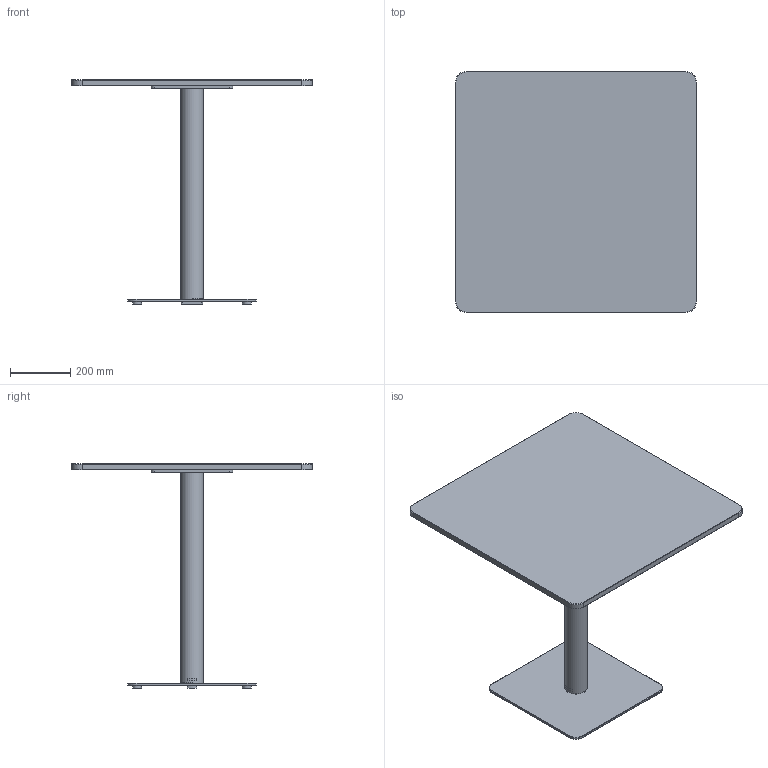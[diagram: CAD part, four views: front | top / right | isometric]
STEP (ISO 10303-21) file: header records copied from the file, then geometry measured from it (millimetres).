
FILE_DESCRIPTION( ('This file contains a STEP AP42 implementation' ,'as created by ZW3D STEP Interface translator.') ,'2;1' );
FILE_NAME( 'Henri - B_Carré - F3 - M1 - 800 x 800 x 750.stp' ,'24 912.17 521', (''), ('ZWCAD Software Co.'), 'Version 1.0', 'ZW3D to STEP translator', '' );
FILE_SCHEMA(('AUTOMOTIVE_DESIGN { 1 0 10303 214 1 1 1 1 }'));
Length unit declared in the file: millimetre
Products named in the file (14): 0; PIED BISTROT PARAMETRIQUE_; COLONNE ACIER Ø76 V.02_; TUB-D076-02_; PLA-R76B-01_; CROIX ACIER 370 V.02_; CRX-X370-02_; SOCLE ACIER L 425x425 V.02_; SCL-R425-02_; PLA-R30A-01_; PLA-R30A-01; WUERTH 0276063020 Euro-screw 6.3x2 Verzinkt_; PLATEAU BISTROT PARAMETRIQUE_; insert_m6_13_
Assembly tree (22 placements, depth 3):
  0
  PIED BISTROT PARAMETRIQUE_
    COLONNE ACIER Ø76 V.02_
      TUB-D076-02_
      PLA-R76B-01_  x2
    CROIX ACIER 370 V.02_
      CRX-X370-02_
    SOCLE ACIER L 425x425 V.02_
      SCL-R425-02_
      PLA-R30A-01_
      PLA-R30A-01  x3
    WUERTH 0276063020 Euro-screw 6.3x2 Verzinkt_
    PLATEAU BISTROT PARAMETRIQUE_
      insert_m6_13_  x8
Bounding box: 800 x 800 x 744 mm (x, y, z)
Volume: 15149712.6 mm3; surface area: 2228455.6 mm2
Topology: 19 solids, 19 shells, 537 faces, 1310 edges, 822 vertices
Faces by surface type: plane 262, bspline 121, cylinder 98, cone 55, torus 1
Full cylindrical faces by diameter (mm): 4.88 x1, 6 x8, 6.3 x1, 8 x45, 12 x2, 14 x2, 30 x4, 72 x1, 76 x1
Entity records: 12310 total; most frequent: CARTESIAN_POINT 3396, ORIENTED_EDGE 1624, DIRECTION 1519, EDGE_CURVE 812, VERTEX_POINT 518, VECTOR 513, LINE 513, AXIS2_PLACEMENT_3D 503
